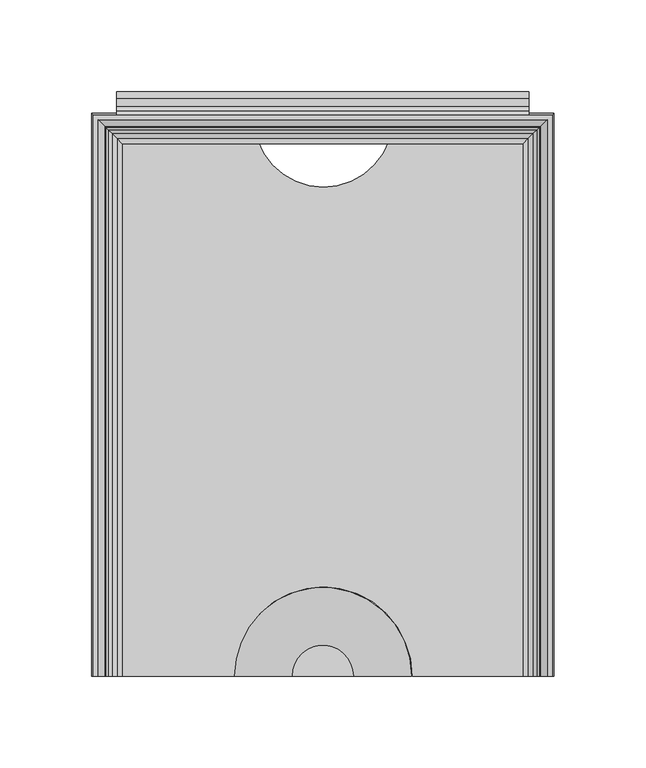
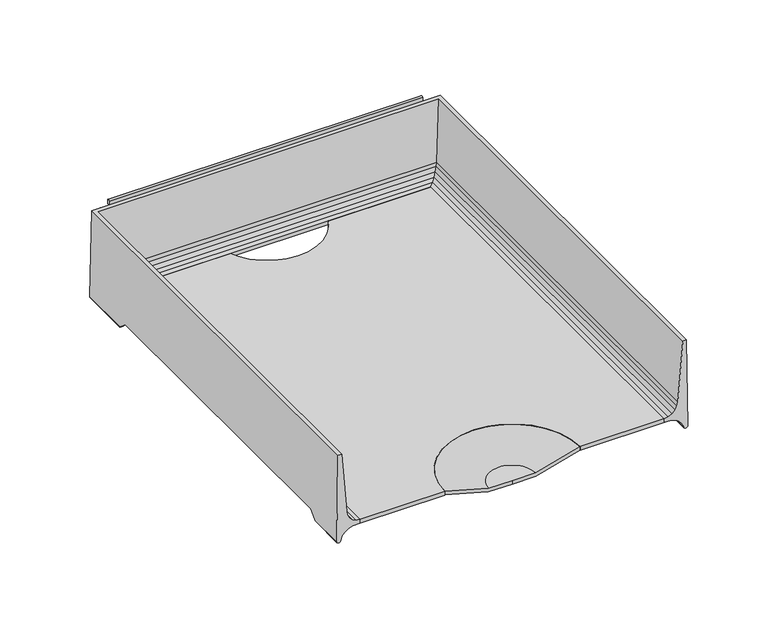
"""IFC4 building model written with IfcOpenShell, lengths in millimetres: furniture geometry."""

from ifc_helpers import new_model, si_unit, point, frame, frame_2d, origin, place, context, project, spatial, polyline, circle_curve, ellipse_curve, trimmed, segment, composite_curve, outline, extrude, source, transform, mapped, element, save
from ifc_brep_helpers import plane_surface, cylinder_surface, revolved_surface, advanced_brep


def furniture_16496107(model_context):
    return source(origin(), model_context, "Body", "SolidModel", [
        advanced_brep(
        [(126.0820502, -154.0206082, 899.8007489), (125.1325529, -154.0206082, 965.2001914), (122.4547921, -154.0206082, 965.2001914), (118.8379747, -154.0206082, 920.4131003), (118.4123648, -154.0206082, 917.6796052), (117.0774354, -154.0206082, 914.9785664), (114.9656457, -154.0206082, 912.8296015), (112.28832, -154.0206082, 911.4477261), (109.3133381, -154.0206082, 910.9712052), (109.3133381, -154.0206082, 908.1490971), (114.5666739, -154.0206082, 907.9560987), (117.605351, -154.0206082, 906.8997218), (120.2416, -154.0206082, 905.0558822), (122.2762142, -154.0206082, 902.5639079), (123.1625518, -154.0206082, 899.5206655), (126.0820502, -127.6379698, 899.8007489), (126.0026181, -121.5231874, 905.271872), (126.0026181, 109.0611937, 905.271872), (126.0820502, 115.1759816, 899.8007489), (126.0820502, 153.036442, 899.8007489), (125.1325529, 152.0869447, 965.2001914), (-125.1325529, 152.0869447, 965.2001914), (-125.1325529, -154.0206082, 965.2001914), (-122.4547921, -154.0206082, 965.2001914), (-122.4547921, 149.4091839, 965.2001914), (122.4547921, 149.4091839, 965.2001914), (118.8379747, 145.7923665, 920.4131003), (118.4123648, 145.3667566, 917.6796052), (117.0774354, 144.0318272, 914.9785664), (114.9656457, 141.9200375, 912.8296015), (112.28832, 139.2427118, 911.4477261), (109.3133381, 136.2677299, 910.9712052), (109.3133381, 136.2677299, 908.1490971), (114.5666739, 141.5210656, 907.9560987), (117.605351, 144.5597428, 906.8997218), (120.2416, 147.1959918, 905.0558822), (120.2416, 109.3025941, 905.0558822), (119.9327864, 109.0611937, 905.271872), (119.9327864, -121.5231874, 905.271872), (120.2416, -121.7645876, 905.0558822), (122.2762142, -124.5497344, 902.5639079), (122.2762142, 149.230606, 902.5639079), (122.2762142, 112.0877435, 902.5639079), (123.1625518, -127.9510041, 899.5206655), (123.1625518, 150.1169436, 899.5206655), (123.1625518, 115.4890162, 899.5206655), (-126.0820502, 153.036442, 899.8007489), (-118.8379747, 145.7923665, 920.4131003), (-118.4123648, 145.3667566, 917.6796052), (-117.0774354, 144.0318272, 914.9785664), (-114.9656457, 141.9200375, 912.8296015), (-112.28832, 139.2427118, 911.4477261), (-109.3133381, 136.2677299, 910.9712052), (-109.3133381, 136.2677299, 908.1490971), (-114.5666739, 141.5210656, 907.9560987), (-117.605351, 144.5597428, 906.8997218), (-120.2416, 147.1959918, 905.0558822), (-122.2762142, 149.230606, 902.5639079), (-123.1625518, 150.1169436, 899.5206655), (-126.0820502, -154.0206082, 899.8007489), (-123.1625518, -154.0206082, 899.5206655), (-122.2762142, -154.0206082, 902.5639079), (-120.2416, -154.0206082, 905.0558822), (-117.605351, -154.0206082, 906.8997218), (-114.5666739, -154.0206082, 907.9560987), (-109.3133381, -154.0206082, 908.1490971), (-109.3133381, -154.0206082, 910.9712052), (-112.28832, -154.0206082, 911.4477261), (-114.9656457, -154.0206082, 912.8296015), (-117.0774354, -154.0206082, 914.9785664), (-118.4123648, -154.0206082, 917.6796052), (-118.8379747, -154.0206082, 920.4131003), (-126.0820502, 115.1759816, 899.8007489), (-126.0026181, 109.0611937, 905.271872), (-126.0026181, -121.5231874, 905.271872), (-126.0820502, -127.6379698, 899.8007489), (-120.2416, -121.7645876, 905.0558822), (-119.9327864, -121.5231874, 905.271872), (-119.9327864, 109.0611937, 905.271872), (-120.2416, 109.3025941, 905.0558822), (-122.2762142, 112.0877435, 902.5639079), (-122.2762142, -124.5497344, 902.5639079), (-123.1625518, 115.4890162, 899.5206655), (-123.1625518, -127.9510041, 899.5206655)],
        [
            (0, 1),
            (1, 2),
            (2, 3),
            (3, 4),
            (4, 5),
            (5, 6),
            (6, 7),
            (7, 8),
            (8, 9),
            (9, 10),
            (10, 11),
            (11, 12),
            (12, 13),
            (13, 14),
            (14, 0, circle_curve(frame((124.5859452, -154.0206082, 900.0396685), z_axis=(0.0, -1.0, 0.0), x_axis=(-1.0, 0.0, 0.0)), 1.515062)),
            (0, 15),
            (15, 16),
            (16, 17),
            (17, 18),
            (18, 19),
            (19, 20),
            (20, 1),
            (20, 21),
            (21, 22),
            (22, 23),
            (23, 24),
            (24, 25),
            (25, 2),
            (25, 26),
            (26, 3),
            (26, 27),
            (27, 4),
            (27, 28),
            (28, 5),
            (28, 29),
            (29, 6),
            (29, 30),
            (30, 7),
            (30, 31),
            (31, 8),
            (31, 32),
            (32, 9),
            (32, 33),
            (33, 10),
            (33, 34),
            (34, 11),
            (34, 35),
            (35, 36),
            (36, 37),
            (37, 38),
            (38, 39),
            (39, 12),
            (39, 40),
            (40, 13),
            (35, 41),
            (41, 42),
            (42, 36),
            (40, 43),
            (43, 14),
            (41, 44),
            (44, 45),
            (45, 42),
            (43, 15, ellipse_curve(frame((124.5859452, -127.3709422, 900.0396685), z_axis=(0.0, -0.6667949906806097, 0.7452411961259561), x_axis=(0.0, -0.7452411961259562, -0.6667949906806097)), 2.2721556, 1.515062)),
            (44, 19, ellipse_curve(frame((124.5859452, 151.540337, 900.0396685), z_axis=(0.7071067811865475, -0.7071067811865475, 0.0), x_axis=(-0.7071067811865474, -0.7071067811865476, 0.0)), 2.1426212, 1.515062)),
            (18, 45, ellipse_curve(frame((124.5859452, 114.9089538, 900.0396685), z_axis=(0.0, 0.6667946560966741, 0.7452414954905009), x_axis=(0.0, -0.7452414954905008, 0.6667946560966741)), 2.2721567, 1.515062)),
            (19, 46),
            (46, 21),
            (24, 47),
            (47, 26),
            (47, 48),
            (48, 27),
            (48, 49),
            (49, 28),
            (49, 50),
            (50, 29),
            (50, 51),
            (51, 30),
            (51, 52),
            (52, 31),
            (52, 53),
            (53, 32),
            (53, 54),
            (54, 33),
            (54, 55),
            (55, 34),
            (55, 56),
            (56, 35),
            (56, 57),
            (57, 41),
            (57, 58),
            (58, 44),
            (58, 46, ellipse_curve(frame((-124.5859452, 151.540337, 900.0396685), z_axis=(0.7071067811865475, 0.7071067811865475, 0.0), x_axis=(0.7071067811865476, -0.7071067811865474, 0.0)), 2.1426212, 1.515062)),
            (22, 59),
            (59, 60, circle_curve(frame((-124.5859452, -154.0206082, 900.0396685), z_axis=(0.0, -1.0, 0.0), x_axis=(1.0, 0.0, 0.0)), 1.515062)),
            (60, 61),
            (61, 62),
            (62, 63),
            (63, 64),
            (64, 65),
            (65, 66),
            (66, 67),
            (67, 68),
            (68, 69),
            (69, 70),
            (70, 71),
            (71, 23),
            (46, 72),
            (72, 73),
            (73, 74),
            (74, 75),
            (75, 59),
            (71, 47),
            (70, 48),
            (69, 49),
            (68, 50),
            (67, 51),
            (66, 52),
            (65, 53),
            (64, 54),
            (63, 55),
            (62, 76),
            (76, 77),
            (77, 78),
            (78, 79),
            (79, 56),
            (79, 80),
            (80, 57),
            (61, 81),
            (81, 76),
            (80, 82),
            (82, 58),
            (60, 83),
            (83, 81),
            (82, 72, ellipse_curve(frame((-124.5859452, 114.9089538, 900.0396685), z_axis=(0.0, 0.6667946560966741, 0.7452414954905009), x_axis=(0.0, 0.7452414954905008, -0.6667946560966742)), 2.2721567, 1.515062)),
            (75, 83, ellipse_curve(frame((-124.5859452, -127.3709422, 900.0396685), z_axis=(0.0, -0.6667949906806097, 0.7452411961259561), x_axis=(0.0, 0.745241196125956, 0.6667949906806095)), 2.2721556, 1.515062)),
            (38, 16),
            (74, 77),
            (37, 17),
            (73, 78),
        ],
        [
            plane_surface(frame((127.0, -154.0206082, 898.525), z_axis=(0.0, -1.0, 0.0), x_axis=(0.0, 0.0, 1.0))),
            plane_surface(frame((126.0820502, -154.0206082, 899.8007489), z_axis=(0.9998946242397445, 0.0, 0.01451690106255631), x_axis=(0.0, 1.0, 0.0))),
            plane_surface(frame((125.1325529, -154.0206082, 965.2001914), z_axis=(0.0, 0.0, 1.0), x_axis=(0.0, 1.0, 0.0))),
            plane_surface(frame((122.4547921, -154.0206082, 965.2001914), z_axis=(-0.9967551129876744, 0.0, 0.08049375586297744), x_axis=(0.0, 1.0, 0.0))),
            plane_surface(frame((118.8379747, -154.0206082, 920.4131003), z_axis=(-0.9880945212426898, 0.0, 0.15384803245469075), x_axis=(0.0, 1.0, 0.0))),
            plane_surface(frame((118.4123648, -154.0206082, 917.6796052), z_axis=(-0.8964873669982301, 0.0, 0.44306929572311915), x_axis=(0.0, 1.0, 0.0))),
            plane_surface(frame((117.0774354, -154.0206082, 914.9785664), z_axis=(-0.7132491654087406, 0.0, 0.7009105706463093), x_axis=(0.0, 1.0, 0.0))),
            plane_surface(frame((114.9656457, -154.0206082, 912.8296015), z_axis=(-0.45865074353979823, 0.0, 0.8886166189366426), x_axis=(0.0, 1.0, 0.0))),
            plane_surface(frame((112.28832, -154.0206082, 911.4477261), z_axis=(-0.15816001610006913, 0.0, 0.987413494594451), x_axis=(0.0, 1.0, 0.0))),
            plane_surface(frame((109.3133381, -154.0206082, 910.9712052), z_axis=(-1.0, 0.0, 0.0), x_axis=(0.0, 1.0, 0.0))),
            plane_surface(frame((109.3133381, -154.0206082, 908.1490971), z_axis=(-0.036713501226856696, 0.0, -0.9993258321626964), x_axis=(0.0, 1.0, 0.0))),
            plane_surface(frame((114.5666739, -154.0206082, 907.9560987), z_axis=(-0.3283669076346, 0.0, -0.9445502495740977), x_axis=(0.0, 1.0, 0.0))),
            plane_surface(frame((117.605351, -154.0206082, 906.8997218), z_axis=(-0.5731421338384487, 0.0, -0.819455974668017), x_axis=(0.0, 1.0, 0.0))),
            plane_surface(frame((120.2416, -154.0206082, 905.0558822), z_axis=(-0.77460799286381, 0.0, -0.6324416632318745), x_axis=(0.0, 1.0, 0.0))),
            plane_surface(frame((122.2762142, -154.0206082, 902.5639079), z_axis=(-0.9601080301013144, 0.0, -0.2796293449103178), x_axis=(0.0, 1.0, 0.0))),
            cylinder_surface(frame((124.5859452, -154.0206082, 900.0396685), z_axis=(0.0, -1.0, 0.0), x_axis=(-1.0, 0.0, 0.0)), 1.515062),
            plane_surface(frame((126.0820502, 153.036442, 899.8007489), z_axis=(0.0, 0.9998946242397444, 0.01451690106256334), x_axis=(-1.0, 0.0, 0.0))),
            plane_surface(frame((122.4547921, 149.4091839, 965.2001914), z_axis=(0.0, -0.9967551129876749, 0.08049375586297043), x_axis=(-1.0, 0.0, 0.0))),
            plane_surface(frame((118.8379747, 145.7923665, 920.4131003), z_axis=(0.0, -0.9880945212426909, 0.15384803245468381), x_axis=(-1.0, 0.0, 0.0))),
            plane_surface(frame((118.4123648, 145.3667566, 917.6796052), z_axis=(0.0, -0.8964873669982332, 0.4430692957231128), x_axis=(-1.0, 0.0, 0.0))),
            plane_surface(frame((117.0774354, 144.0318272, 914.9785664), z_axis=(0.0, -0.7132491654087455, 0.7009105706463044), x_axis=(-1.0, 0.0, 0.0))),
            plane_surface(frame((114.9656457, 141.9200375, 912.8296015), z_axis=(0.0, -0.4586507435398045, 0.8886166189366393), x_axis=(-1.0, 0.0, 0.0))),
            plane_surface(frame((112.28832, 139.2427118, 911.4477261), z_axis=(0.0, -0.15816001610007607, 0.9874134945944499), x_axis=(-1.0, 0.0, 0.0))),
            plane_surface(frame((109.3133381, 136.2677299, 910.9712052), z_axis=(0.0, -1.0, 0.0), x_axis=(-1.0, 0.0, 0.0))),
            plane_surface(frame((109.3133381, 136.2677299, 908.1490971), z_axis=(0.0, -0.03671350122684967, -0.9993258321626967), x_axis=(-1.0, 0.0, 0.0))),
            plane_surface(frame((114.5666739, 141.5210656, 907.9560987), z_axis=(0.0, -0.32836690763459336, -0.9445502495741), x_axis=(-1.0, 0.0, 0.0))),
            plane_surface(frame((117.605351, 144.5597428, 906.8997218), z_axis=(0.0, -0.5731421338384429, -0.819455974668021), x_axis=(-1.0, 0.0, 0.0))),
            plane_surface(frame((120.2416, 147.1959918, 905.0558822), z_axis=(0.0, -0.7746079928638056, -0.6324416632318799), x_axis=(-1.0, 0.0, 0.0))),
            plane_surface(frame((122.2762142, 149.230606, 902.5639079), z_axis=(0.0, -0.9601080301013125, -0.27962934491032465), x_axis=(-1.0, 0.0, 0.0))),
            cylinder_surface(frame((127.0, 151.540337, 900.0396685), z_axis=(1.0, 0.0, 0.0), x_axis=(0.0, -1.0, 0.0)), 1.515062),
            plane_surface(frame((-127.0, -154.0206082, 898.525), z_axis=(0.0, -1.0, 0.0), x_axis=(0.0, 0.0, 1.0))),
            plane_surface(frame((-126.0820502, 153.036442, 899.8007489), z_axis=(-0.9998946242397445, 0.0, 0.01451690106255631), x_axis=(0.0, -1.0, 0.0))),
            plane_surface(frame((-122.4547921, 149.4091839, 965.2001914), z_axis=(0.9967551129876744, 0.0, 0.08049375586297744), x_axis=(0.0, -1.0, 0.0))),
            plane_surface(frame((-118.8379747, 145.7923665, 920.4131003), z_axis=(0.9880945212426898, 0.0, 0.15384803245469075), x_axis=(0.0, -1.0, 0.0))),
            plane_surface(frame((-118.4123648, 145.3667566, 917.6796052), z_axis=(0.8964873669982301, 0.0, 0.44306929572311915), x_axis=(0.0, -1.0, 0.0))),
            plane_surface(frame((-117.0774354, 144.0318272, 914.9785664), z_axis=(0.7132491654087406, 0.0, 0.7009105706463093), x_axis=(0.0, -1.0, 0.0))),
            plane_surface(frame((-114.9656457, 141.9200375, 912.8296015), z_axis=(0.45865074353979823, 0.0, 0.8886166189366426), x_axis=(0.0, -1.0, 0.0))),
            plane_surface(frame((-112.28832, 139.2427118, 911.4477261), z_axis=(0.15816001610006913, 0.0, 0.987413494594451), x_axis=(0.0, -1.0, 0.0))),
            plane_surface(frame((-109.3133381, 136.2677299, 910.9712052), z_axis=(1.0, 0.0, 0.0), x_axis=(0.0, -1.0, 0.0))),
            plane_surface(frame((-109.3133381, 136.2677299, 908.1490971), z_axis=(0.036713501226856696, 0.0, -0.9993258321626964), x_axis=(0.0, -1.0, 0.0))),
            plane_surface(frame((-114.5666739, 141.5210656, 907.9560987), z_axis=(0.3283669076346, 0.0, -0.9445502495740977), x_axis=(0.0, -1.0, 0.0))),
            plane_surface(frame((-117.605351, 144.5597428, 906.8997218), z_axis=(0.5731421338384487, 0.0, -0.819455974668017), x_axis=(0.0, -1.0, 0.0))),
            plane_surface(frame((-120.2416, 147.1959918, 905.0558822), z_axis=(0.77460799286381, 0.0, -0.6324416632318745), x_axis=(0.0, -1.0, 0.0))),
            plane_surface(frame((-122.2762142, 149.230606, 902.5639079), z_axis=(0.9601080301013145, 0.0, -0.2796293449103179), x_axis=(0.0, -1.0, 0.0))),
            cylinder_surface(frame((-124.5859452, 153.9543918, 900.0396685), z_axis=(0.0, 1.0, 0.0), x_axis=(1.0, 0.0, 0.0)), 1.515062),
            plane_surface(frame((-127.0, -130.1695728, 897.5356296), z_axis=(0.0, 0.6667949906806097, -0.7452411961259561), x_axis=(1.0, 0.0, 0.0))),
            plane_surface(frame((-127.0, -121.5231874, 905.271872), z_axis=(0.0, 0.0, -1.0), x_axis=(1.0, 0.0, 0.0))),
            plane_surface(frame((-127.0, 109.0611937, 905.271872), z_axis=(0.0, -0.6667946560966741, -0.7452414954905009), x_axis=(1.0, 0.0, 0.0))),
        ],
        [
            (0, [[1, 2, 3, 4, 5, 6, 7, 8, 9, 10, 11, 12, 13, 14, 15]]),
            (1, [[-1, 16, 17, 18, 19, 20, 21, 22]]),
            (2, [[-2, -22, 23, 24, 25, 26, 27, 28]]),
            (3, [[-3, -28, 29, 30]]),
            (4, [[-4, -30, 31, 32]]),
            (5, [[-5, -32, 33, 34]]),
            (6, [[-6, -34, 35, 36]]),
            (7, [[-7, -36, 37, 38]]),
            (8, [[-8, -38, 39, 40]]),
            (9, [[-9, -40, 41, 42]]),
            (10, [[-10, -42, 43, 44]]),
            (11, [[-11, -44, 45, 46]]),
            (12, [[-12, -46, 47, 48, 49, 50, 51, 52]]),
            (13, [[-13, -52, 53, 54]]),
            (13, [[55, 56, 57, -48]]),
            (14, [[-14, -54, 58, 59]]),
            (14, [[60, 61, 62, -56]]),
            (15, [[-15, -59, 63, -16]]),
            (15, [[64, -20, 65, -61]]),
            (16, [[-21, 66, 67, -23]]),
            (17, [[-27, 68, 69, -29]]),
            (18, [[-31, -69, 70, 71]]),
            (19, [[-33, -71, 72, 73]]),
            (20, [[-35, -73, 74, 75]]),
            (21, [[-37, -75, 76, 77]]),
            (22, [[-39, -77, 78, 79]]),
            (23, [[-41, -79, 80, 81]]),
            (24, [[-43, -81, 82, 83]]),
            (25, [[-45, -83, 84, 85]]),
            (26, [[-47, -85, 86, 87]]),
            (27, [[-55, -87, 88, 89]]),
            (28, [[-60, -89, 90, 91]]),
            (29, [[-64, -91, 92, -66]]),
            (30, [[-25, 93, 94, 95, 96, 97, 98, 99, 100, 101, 102, 103, 104, 105, 106]]),
            (31, [[-24, -67, 107, 108, 109, 110, 111, -93]]),
            (32, [[-26, -106, 112, -68]]),
            (33, [[-70, -112, -105, 113]]),
            (34, [[-72, -113, -104, 114]]),
            (35, [[-74, -114, -103, 115]]),
            (36, [[-76, -115, -102, 116]]),
            (37, [[-78, -116, -101, 117]]),
            (38, [[-80, -117, -100, 118]]),
            (39, [[-82, -118, -99, 119]]),
            (40, [[-84, -119, -98, 120]]),
            (41, [[-86, -120, -97, 121, 122, 123, 124, 125]]),
            (42, [[-88, -125, 126, 127]]),
            (42, [[-96, 128, 129, -121]]),
            (43, [[-90, -127, 130, 131]]),
            (43, [[-95, 132, 133, -128]]),
            (44, [[-92, -131, 134, -107]]),
            (44, [[-94, -111, 135, -132]]),
            (45, [[136, -17, -63, -58, -53, -51]]),
            (45, [[137, -122, -129, -133, -135, -110]]),
            (46, [[-136, -50, 138, -18]]),
            (46, [[-137, -109, 139, -123]]),
            (47, [[-138, -49, -57, -62, -65, -19]]),
            (47, [[-139, -108, -134, -130, -126, -124]]),
        ],
    ),
        extrude(outline(composite_curve([segment(polyline([(-109.3647805, 138.2769393), (-35.6610422, 138.2769393)]), True, "CONTINUOUS"), segment(trimmed(circle_curve(frame_2d((0.3369133, 150.6584166)), 38.0677525), [point((-35.6610422, 138.2769393))], [point((36.3348688, 138.2769393))], True, "CARTESIAN"), True, "CONTINUOUS"), segment(polyline([(36.3348688, 138.2769393), (109.6504969, 138.2769393), (109.6504969, -153.9875), (48.9112184, -153.9875)]), True, "CONTINUOUS"), segment(trimmed(circle_curve(frame_2d((0.2842795, -153.9323196)), 48.6269702), [point((48.9112184, -153.9875))], [point((-48.3426595, -153.9875))], True, "CARTESIAN"), True, "CONTINUOUS"), segment(polyline([(-48.3426595, -153.9875), (-109.3647805, -153.9875), (-109.3647805, 138.2769393)]), True, "CONTINUOUS")], self_intersect=False)), frame((0.0, 0.0, 908.1314677), z_axis=(0.0, 0.0, 1.0), x_axis=(1.0, 0.0, 0.0)), (0.0, 0.0, 1.0), 2.8395461),
        extrude(outline(composite_curve([segment(trimmed(circle_curve(frame_2d((162.7186949, 949.3707343)), 1.9049988), [point((164.6236937, 949.3707343))], [point((160.8136962, 949.3707343))], False, "CARTESIAN"), True, "CONTINUOUS"), segment(polyline([(160.8136962, 949.3707343), (160.8136962, 952.7997311), (160.0516969, 953.5617303), (156.4380325, 953.5617303), (152.1427596, 951.2143331), (152.1427596, 959.7191285), (156.4380325, 957.3717312), (160.8136928, 957.3717312)]), True, "CONTINUOUS"), segment(trimmed(circle_curve(frame_2d((160.8136928, 953.5617303)), 3.8100009), [point((160.8136928, 957.3717312))], [point((164.6236937, 953.5617303))], False, "CARTESIAN"), True, "CONTINUOUS"), segment(polyline([(164.6236937, 953.5617303), (164.6236937, 949.3707343)]), True, "CONTINUOUS")], self_intersect=False)), frame((-112.5397809, 0.0, 0.0), z_axis=(1.0, 0.0, 0.0), x_axis=(0.0, 1.0, 0.0)), (0.0, 0.0, 1.0), 225.0795617),
        advanced_brep(
        [(-16.8929028, -153.9875, 902.096875), (-48.4614622, -153.9875, 911.0045432), (-48.4614622, -153.9875, 908.4130018), (-16.9249292, -153.9875, 899.5143704), (0.0, -153.9875, 899.5143704), (0.0, -153.9875, 902.096875), (16.8929028, -153.9875, 902.096875), (16.9249292, -153.9875, 899.5143704), (48.4614622, -153.9875, 908.4130018), (48.4614622, -153.9875, 911.0045432)],
        [
            (0, 1),
            (1, 2),
            (2, 3),
            (3, 4),
            (4, 5),
            (5, 0),
            (6, 5),
            (4, 7),
            (7, 8),
            (8, 9),
            (9, 6),
            (9, 1, circle_curve(frame((0.0, -153.9875, 911.0045432), z_axis=(0.0, 0.0, 1.0), x_axis=(-1.0, 0.0, 0.0)), 48.4614622)),
            (0, 6, circle_curve(frame((0.0, -153.9875, 902.096875), z_axis=(0.0, 0.0, -1.0), x_axis=(-1.0, 0.0, 0.0)), 16.8929028)),
            (8, 2, circle_curve(frame((0.0, -153.9875, 908.4130018), z_axis=(0.0, 0.0, 1.0), x_axis=(-1.0, 0.0, 0.0)), 48.4614622)),
            (7, 3, circle_curve(frame((0.0, -153.9875, 899.5143704), z_axis=(0.0, 0.0, 1.0), x_axis=(-1.0, 0.0, 0.0)), 16.9249292)),
        ],
        [
            plane_surface(frame((0.0, -153.9875, 898.525), z_axis=(0.0, -1.0, 0.0), x_axis=(-1.0, 0.0, 0.0))),
            plane_surface(frame((0.0, -153.9875, 898.525), z_axis=(0.0, -1.0, 0.0), x_axis=(1.0, 0.0, 0.0))),
            revolved_surface(polyline([(-48.4614622, -153.9875, 911.0045432), (-16.8929028, -153.9875, 902.096875)]), (0.0, -153.9875, 898.525), (0.0, 0.0, 1.0)),
            cylinder_surface(frame((0.0, -153.9875, 898.525), z_axis=(0.0, 0.0, 1.0), x_axis=(-1.0, 0.0, 0.0)), 48.4614622),
            revolved_surface(polyline([(-16.9249292, -153.9875, 899.5143704), (-48.4614622, -153.9875, 908.4130018)]), (0.0, -153.9875, 898.525), (0.0, 0.0, 1.0)),
            plane_surface(frame((0.0, -153.9875, 899.5143704), z_axis=(0.0, 0.0, -1.0), x_axis=(-1.0, 0.0, 0.0))),
            plane_surface(frame((0.0, -153.9875, 902.096875), z_axis=(0.0, 0.0, 1.0), x_axis=(-1.0, 0.0, 0.0))),
        ],
        [
            (0, [[1, 2, 3, 4, 5, 6]]),
            (1, [[7, -5, 8, 9, 10, 11]]),
            (2, [[12, -1, 13, -11]]),
            (3, [[14, -2, -12, -10]]),
            (4, [[15, -3, -14, -9]]),
            (5, [[-4, -15, -8]]),
            (6, [[-13, -6, -7]]),
        ],
    ),
        extrude(outline(composite_curve([segment(polyline([(153.9875, 965.2), (152.1427596, 965.2), (152.1427596, 968.0315333)]), True, "CONTINUOUS"), segment(trimmed(circle_curve(frame_2d((153.0651298, 967.7262665)), 0.9715733), [point((152.1427596, 968.0315333))], [point((153.9875, 968.0315333))], False, "CARTESIAN"), True, "CONTINUOUS"), segment(polyline([(153.9875, 968.0315333), (153.9875, 965.2)]), True, "CONTINUOUS")], self_intersect=False)), frame((-112.5397809, 0.0, 0.0), z_axis=(1.0, 0.0, 0.0), x_axis=(0.0, 1.0, 0.0)), (0.0, 0.0, 1.0), 225.0795617),
    ])


if __name__ == "__main__":
    model = new_model("IFC4")
    model_context = context("Model", 3, world=origin())
    ifc_project = project(units=[si_unit("LENGTHUNIT", "METRE", prefix="MILLI")], contexts=[model_context])
    site = spatial("IfcSite", under=ifc_project)
    building = spatial("IfcBuilding", under=site)
    placement = place(None, origin())
    furniture_shape = furniture_16496107(model_context)
    element("IfcFurniture", 1, ObjectType="HermanMiller_ThrivePortfolio_Y7216_PaperTray : 3\"H x 12\"D x 10\"W", at=placement, inside=building, context=model_context, shape_type="MappedRepresentation", body=[
        mapped(furniture_shape, transform((0.0, 0.0, 0.0), x_axis=(1.0, 0.0, 0.0), y_axis=(0.0, 1.0, 0.0), z_axis=(0.0, 0.0, 1.0))),
    ])
    save(model, "model.ifc")
